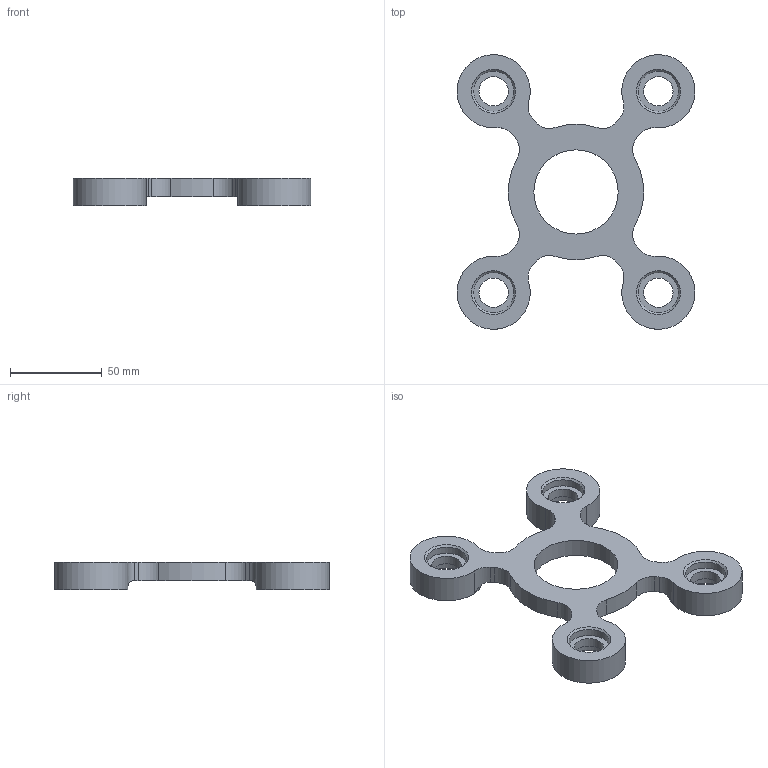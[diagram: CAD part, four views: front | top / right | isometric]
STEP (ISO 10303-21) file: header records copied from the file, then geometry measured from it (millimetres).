
FILE_DESCRIPTION(/* description */ ('','CAx-IF Rec.Pracs.---Representation and Presentation of Product Manufacturing Information (PMI)---4.0---2014-10-13'),/* implementation_level */ '2;1');
FILE_NAME(/* name */ 'base 13 15.step',/* time_stamp */ '2025-03-18T20:33:31+01:00',/* author */ (''),/* organization */ (''),/* preprocessor_version */ 'ST-DEVELOPER v20',/* originating_system */ 'Autodesk Translation Framework v13.20.0.188',/* authorisation */ '');
FILE_SCHEMA (('AP242_MANAGED_MODEL_BASED_3D_ENGINEERING_MIM_LF { 1 0 10303 442 1 1 4 }'));
Length unit declared in the file: millimetre
Products named in the file (1): base
Bounding box: 129.97 x 150 x 15 mm (x, y, z)
Volume: 92253.7 mm3; surface area: 30291.7 mm2
Topology: 1 solids, 1 shells, 67 faces, 163 edges, 106 vertices
Faces by surface type: cylinder 37, plane 22, cone 4, torus 4
Full cylindrical faces by diameter (mm): 16 x4, 22 x8, 46 x1
Entity records: 2120 total; most frequent: CARTESIAN_POINT 417, DIRECTION 381, ORIENTED_EDGE 326, EDGE_CURVE 163, AXIS2_PLACEMENT_3D 158, VERTEX_POINT 106, CIRCLE 90, EDGE_LOOP 85
